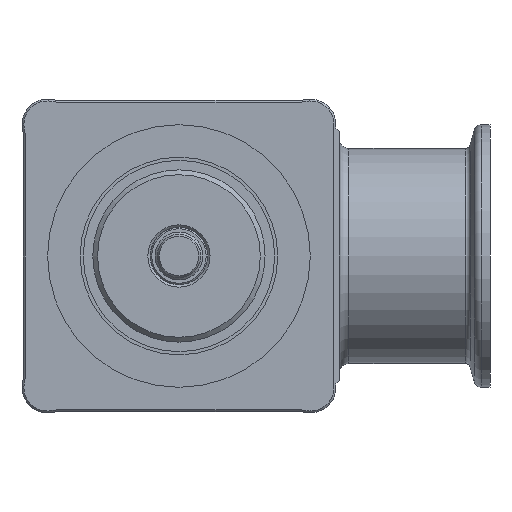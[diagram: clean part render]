
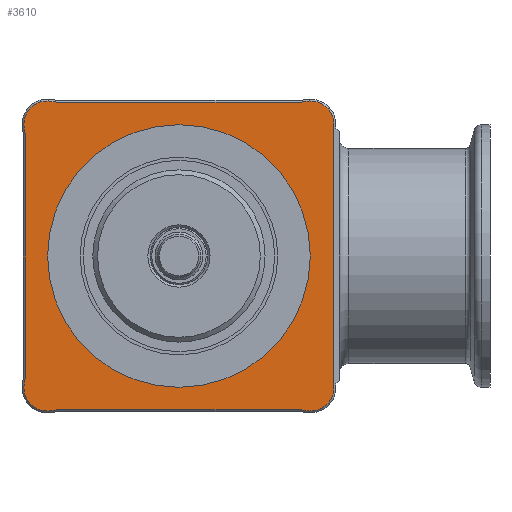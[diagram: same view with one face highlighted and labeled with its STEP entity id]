
A CAD part, front view. The second image highlights one B-rep face of the part: STEP entity #3610.
In plain terms, the highlighted planar face has unit normal (0, -1, 0).
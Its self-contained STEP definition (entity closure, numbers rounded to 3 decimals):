
#1290=LINE('',#13801,#2005);
#1291=LINE('',#13807,#2006);
#1292=LINE('',#13815,#2007);
#1293=LINE('',#13823,#2008);
#2005=VECTOR('',#11234,1.);
#2006=VECTOR('',#11239,1.);
#2007=VECTOR('',#11246,1.);
#2008=VECTOR('',#11253,1.);
#3245=FACE_BOUND('',#4813,.T.);
#3246=FACE_BOUND('',#4814,.T.);
#3610=ADVANCED_FACE('',(#3245,#3246),#4088,.F.);
#4088=PLANE('',#10136);
#4813=EDGE_LOOP('',(#5647));
#4814=EDGE_LOOP('',(#5648,#5649,#5650,#5651,#5652,#5653,#5654,#5655,#5656,
#5657,#5658,#5659,#5660,#5661));
#5647=ORIENTED_EDGE('',*,*,#8626,.T.);
#5648=ORIENTED_EDGE('',*,*,#8627,.T.);
#5649=ORIENTED_EDGE('',*,*,#8628,.T.);
#5650=ORIENTED_EDGE('',*,*,#8629,.T.);
#5651=ORIENTED_EDGE('',*,*,#8630,.T.);
#5652=ORIENTED_EDGE('',*,*,#8631,.T.);
#5653=ORIENTED_EDGE('',*,*,#8632,.T.);
#5654=ORIENTED_EDGE('',*,*,#8633,.T.);
#5655=ORIENTED_EDGE('',*,*,#8634,.T.);
#5656=ORIENTED_EDGE('',*,*,#8635,.T.);
#5657=ORIENTED_EDGE('',*,*,#8636,.T.);
#5658=ORIENTED_EDGE('',*,*,#8637,.T.);
#5659=ORIENTED_EDGE('',*,*,#8638,.T.);
#5660=ORIENTED_EDGE('',*,*,#8639,.T.);
#5661=ORIENTED_EDGE('',*,*,#8640,.T.);
#7802=VERTEX_POINT('',#13797);
#7803=VERTEX_POINT('',#13799);
#7804=VERTEX_POINT('',#13800);
#7805=VERTEX_POINT('',#13802);
#7806=VERTEX_POINT('',#13804);
#7807=VERTEX_POINT('',#13806);
#7808=VERTEX_POINT('',#13808);
#7809=VERTEX_POINT('',#13810);
#7810=VERTEX_POINT('',#13812);
#7811=VERTEX_POINT('',#13814);
#7812=VERTEX_POINT('',#13816);
#7813=VERTEX_POINT('',#13818);
#7814=VERTEX_POINT('',#13820);
#7815=VERTEX_POINT('',#13822);
#7816=VERTEX_POINT('',#13824);
#8626=EDGE_CURVE('',#7802,#7802,#9682,.T.);
#8627=EDGE_CURVE('',#7803,#7804,#9683,.T.);
#8628=EDGE_CURVE('',#7804,#7805,#1290,.T.);
#8629=EDGE_CURVE('',#7805,#7806,#9684,.T.);
#8630=EDGE_CURVE('',#7806,#7807,#9685,.T.);
#8631=EDGE_CURVE('',#7807,#7808,#1291,.T.);
#8632=EDGE_CURVE('',#7808,#7809,#9686,.T.);
#8633=EDGE_CURVE('',#7809,#7810,#9687,.T.);
#8634=EDGE_CURVE('',#7810,#7811,#9688,.T.);
#8635=EDGE_CURVE('',#7811,#7812,#1292,.T.);
#8636=EDGE_CURVE('',#7812,#7813,#9689,.T.);
#8637=EDGE_CURVE('',#7813,#7814,#9690,.T.);
#8638=EDGE_CURVE('',#7814,#7815,#9691,.T.);
#8639=EDGE_CURVE('',#7815,#7816,#1293,.T.);
#8640=EDGE_CURVE('',#7816,#7803,#9692,.T.);
#9682=CIRCLE('',#10125,24.5);
#9683=CIRCLE('',#10126,4.9);
#9684=CIRCLE('',#10127,4.9);
#9685=CIRCLE('',#10128,10.4);
#9686=CIRCLE('',#10129,10.4);
#9687=CIRCLE('',#10130,4.9);
#9688=CIRCLE('',#10131,10.4);
#9689=CIRCLE('',#10132,10.4);
#9690=CIRCLE('',#10133,4.9);
#9691=CIRCLE('',#10134,10.4);
#9692=CIRCLE('',#10135,10.4);
#10125=AXIS2_PLACEMENT_3D('',#13796,#11230,#11231);
#10126=AXIS2_PLACEMENT_3D('',#13798,#11232,#11233);
#10127=AXIS2_PLACEMENT_3D('',#13803,#11235,#11236);
#10128=AXIS2_PLACEMENT_3D('',#13805,#11237,#11238);
#10129=AXIS2_PLACEMENT_3D('',#13809,#11240,#11241);
#10130=AXIS2_PLACEMENT_3D('',#13811,#11242,#11243);
#10131=AXIS2_PLACEMENT_3D('',#13813,#11244,#11245);
#10132=AXIS2_PLACEMENT_3D('',#13817,#11247,#11248);
#10133=AXIS2_PLACEMENT_3D('',#13819,#11249,#11250);
#10134=AXIS2_PLACEMENT_3D('',#13821,#11251,#11252);
#10135=AXIS2_PLACEMENT_3D('',#13825,#11254,#11255);
#10136=AXIS2_PLACEMENT_3D('',#13826,#11256,#11257);
#11230=DIRECTION('',(0.,1.,0.));
#11231=DIRECTION('',(0.,0.,1.));
#11232=DIRECTION('',(0.,-1.,0.));
#11233=DIRECTION('',(0.,0.,1.));
#11234=DIRECTION('',(0.,0.,1.));
#11235=DIRECTION('',(0.,-1.,0.));
#11236=DIRECTION('',(0.,0.,1.));
#11237=DIRECTION('',(0.,1.,0.));
#11238=DIRECTION('',(0.,0.,1.));
#11239=DIRECTION('',(-1.,0.,0.));
#11240=DIRECTION('',(0.,1.,0.));
#11241=DIRECTION('',(0.,0.,1.));
#11242=DIRECTION('',(0.,-1.,0.));
#11243=DIRECTION('',(0.,0.,1.));
#11244=DIRECTION('',(0.,1.,0.));
#11245=DIRECTION('',(0.,0.,1.));
#11246=DIRECTION('',(0.,0.,-1.));
#11247=DIRECTION('',(0.,1.,0.));
#11248=DIRECTION('',(0.,0.,1.));
#11249=DIRECTION('',(0.,-1.,0.));
#11250=DIRECTION('',(0.,0.,1.));
#11251=DIRECTION('',(0.,1.,0.));
#11252=DIRECTION('',(0.,0.,1.));
#11253=DIRECTION('',(1.,0.,0.));
#11254=DIRECTION('',(0.,1.,0.));
#11255=DIRECTION('',(0.,0.,1.));
#11256=DIRECTION('',(0.,1.,0.));
#11257=DIRECTION('',(0.,0.,1.));
#13796=CARTESIAN_POINT('',(0.,34.,0.));
#13797=CARTESIAN_POINT('',(0.,34.,24.5));
#13798=CARTESIAN_POINT('',(27.5,34.,-27.5));
#13799=CARTESIAN_POINT('',(26.534,34.,-32.304));
#13800=CARTESIAN_POINT('',(32.4,34.,-27.5));
#13801=CARTESIAN_POINT('',(32.4,34.,27.5));
#13802=CARTESIAN_POINT('',(32.4,34.,27.5));
#13803=CARTESIAN_POINT('',(27.5,34.,27.5));
#13804=CARTESIAN_POINT('',(26.534,34.,32.304));
#13805=CARTESIAN_POINT('',(24.485,34.,42.5));
#13806=CARTESIAN_POINT('',(24.485,34.,32.1));
#13807=CARTESIAN_POINT('',(-24.485,34.,32.1));
#13808=CARTESIAN_POINT('',(-24.485,34.,32.1));
#13809=CARTESIAN_POINT('',(-24.485,34.,42.5));
#13810=CARTESIAN_POINT('',(-26.534,34.,32.304));
#13811=CARTESIAN_POINT('',(-27.5,34.,27.5));
#13812=CARTESIAN_POINT('',(-32.304,34.,26.534));
#13813=CARTESIAN_POINT('',(-42.5,34.,24.485));
#13814=CARTESIAN_POINT('',(-32.1,34.,24.485));
#13815=CARTESIAN_POINT('',(-32.1,34.,-24.485));
#13816=CARTESIAN_POINT('',(-32.1,34.,-24.485));
#13817=CARTESIAN_POINT('',(-42.5,34.,-24.485));
#13818=CARTESIAN_POINT('',(-32.304,34.,-26.534));
#13819=CARTESIAN_POINT('',(-27.5,34.,-27.5));
#13820=CARTESIAN_POINT('',(-26.534,34.,-32.304));
#13821=CARTESIAN_POINT('',(-24.485,34.,-42.5));
#13822=CARTESIAN_POINT('',(-24.485,34.,-32.1));
#13823=CARTESIAN_POINT('',(24.485,34.,-32.1));
#13824=CARTESIAN_POINT('',(24.485,34.,-32.1));
#13825=CARTESIAN_POINT('',(24.485,34.,-42.5));
#13826=CARTESIAN_POINT('',(-33.8,34.,-33.8));
